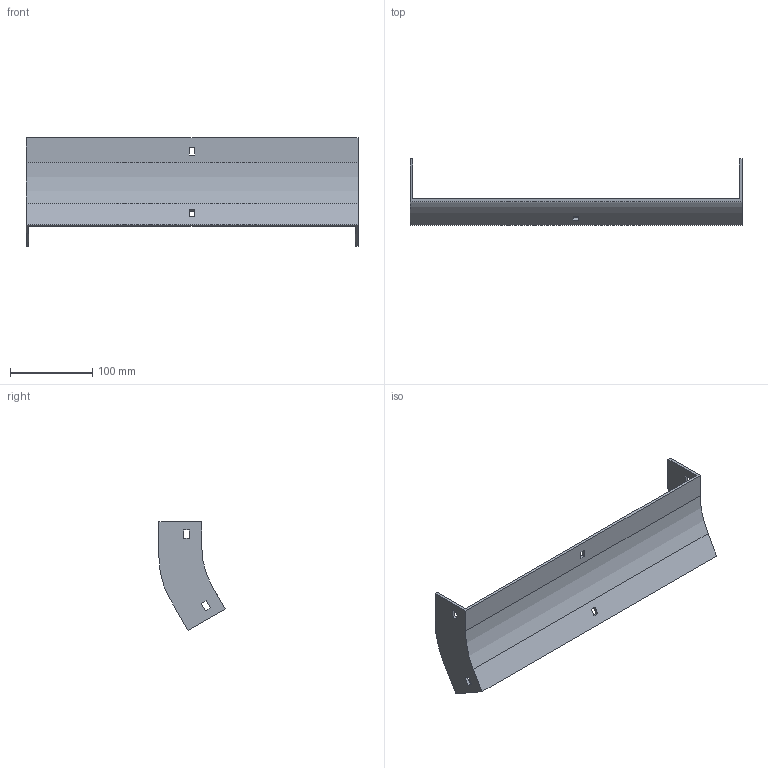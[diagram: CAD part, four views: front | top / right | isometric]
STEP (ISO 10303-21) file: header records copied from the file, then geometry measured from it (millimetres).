
FILE_DESCRIPTION (( 'STEP AP214' ), '1' );
FILE_NAME ('35F1B400.step', '2025-02-21T12:49:34', ( '' ), ( '' ), 'SwSTEP 2.0', 'SolidWorks 2023', '' );
FILE_SCHEMA (( 'AUTOMOTIVE_DESIGN' ));
Length unit declared in the file: millimetre
Products named in the file (1): 35F1B400
Bounding box: 404 x 80.4 x 131.98 mm (x, y, z)
Volume: 202426.2 mm3; surface area: 120847.3 mm2
Topology: 1 solids, 1 shells, 42 faces, 120 edges, 80 vertices
Faces by surface type: plane 38, cylinder 4
Entity records: 1399 total; most frequent: CARTESIAN_POINT 243, ORIENTED_EDGE 240, DIRECTION 214, EDGE_CURVE 120, LINE 112, VECTOR 112, VERTEX_POINT 80, EDGE_LOOP 54
